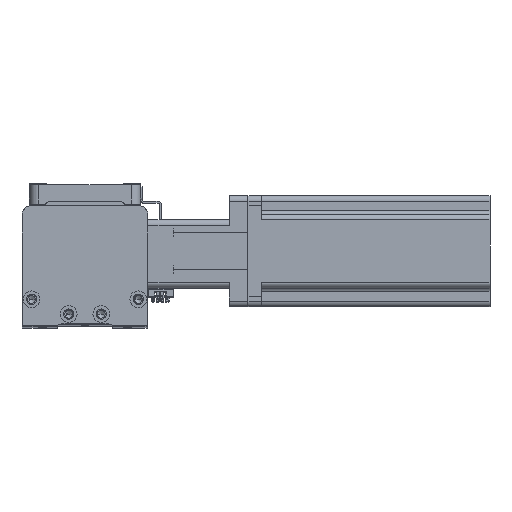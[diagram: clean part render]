
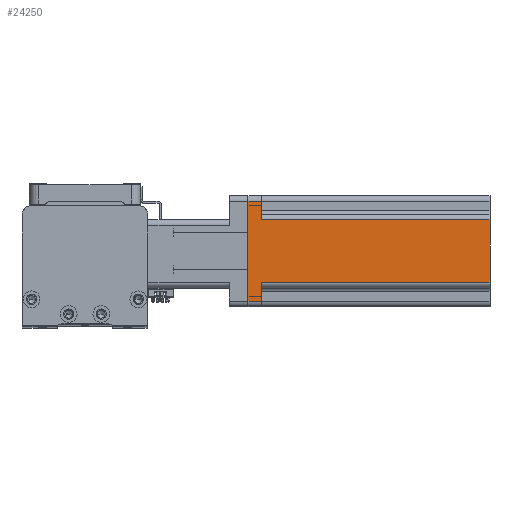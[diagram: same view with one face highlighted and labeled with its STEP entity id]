
A CAD part, top view. The second image highlights one B-rep face of the part: STEP entity #24250.
In plain terms, the highlighted planar face has unit normal (0, 0, 1) as drawn and (1, 0, 0) by its records, which use the part's own axes.
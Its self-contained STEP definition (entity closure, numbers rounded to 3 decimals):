
#992 = CARTESIAN_POINT ( 'NONE',  ( 30., -30., 130.7 ) ) ;
#2276 = VECTOR ( 'NONE', #35354, 1000. ) ;
#2801 = ORIENTED_EDGE ( 'NONE', *, *, #29727, .T. ) ;
#3747 = VERTEX_POINT ( 'NONE', #4107 ) ;
#4107 = CARTESIAN_POINT ( 'NONE',  ( 30., -17., 130.7 ) ) ;
#4290 = DIRECTION ( 'NONE',  ( 0., 0., 1. ) ) ;
#4815 = VECTOR ( 'NONE', #16199, 1000. ) ;
#5182 = LINE ( 'NONE', #34545, #13931 ) ;
#5632 = VECTOR ( 'NONE', #32491, 1000. ) ;
#5931 = FACE_OUTER_BOUND ( 'NONE', #11166, .T. ) ;
#6560 = CARTESIAN_POINT ( 'NONE',  ( 30., -30., 0. ) ) ;
#7615 = CARTESIAN_POINT ( 'NONE',  ( 30., 30., 7.5 ) ) ;
#8007 = ORIENTED_EDGE ( 'NONE', *, *, #20867, .T. ) ;
#8464 = VERTEX_POINT ( 'NONE', #36525 ) ;
#9455 = LINE ( 'NONE', #14914, #34697 ) ;
#9495 = CARTESIAN_POINT ( 'NONE',  ( 30., -30., 130.7 ) ) ;
#10286 = CARTESIAN_POINT ( 'NONE',  ( 30., 27., 7.5 ) ) ;
#10943 = DIRECTION ( 'NONE',  ( 0., 1., 0. ) ) ;
#11166 = EDGE_LOOP ( 'NONE', ( #25993, #26482, #17299, #16752, #8007, #23907, #18776, #2801 ) ) ;
#11596 = VERTEX_POINT ( 'NONE', #16913 ) ;
#12579 = CARTESIAN_POINT ( 'NONE',  ( 30., -17., 7.5 ) ) ;
#12986 = VECTOR ( 'NONE', #37080, 1000. ) ;
#13931 = VECTOR ( 'NONE', #21425, 1000. ) ;
#14466 = VECTOR ( 'NONE', #10943, 1000. ) ;
#14914 = CARTESIAN_POINT ( 'NONE',  ( 30., -17., 7.5 ) ) ;
#15066 = AXIS2_PLACEMENT_3D ( 'NONE', #992, #23919, #4290 ) ;
#15623 = CARTESIAN_POINT ( 'NONE',  ( 30., -30., 7.5 ) ) ;
#16199 = DIRECTION ( 'NONE',  ( 0., 0., -1. ) ) ;
#16752 = ORIENTED_EDGE ( 'NONE', *, *, #28842, .T. ) ;
#16913 = CARTESIAN_POINT ( 'NONE',  ( 30., 17., 7.5 ) ) ;
#17299 = ORIENTED_EDGE ( 'NONE', *, *, #28711, .T. ) ;
#18258 = DIRECTION ( 'NONE',  ( 0., 0., -1. ) ) ;
#18432 = CARTESIAN_POINT ( 'NONE',  ( 30., 17., 130.7 ) ) ;
#18776 = ORIENTED_EDGE ( 'NONE', *, *, #29617, .F. ) ;
#20867 = EDGE_CURVE ( 'NONE', #28196, #39088, #35114, .T. ) ;
#21120 = VERTEX_POINT ( 'NONE', #18432 ) ;
#21425 = DIRECTION ( 'NONE',  ( 0., 0., 1. ) ) ;
#23794 = PLANE ( 'NONE',  #15066 ) ;
#23907 = ORIENTED_EDGE ( 'NONE', *, *, #28925, .T. ) ;
#23919 = DIRECTION ( 'NONE',  ( -1., 0., 0. ) ) ;
#24250 = ADVANCED_FACE ( 'NONE', ( #5931 ), #23794, .F. ) ;
#25077 = EDGE_CURVE ( 'NONE', #3747, #21120, #27708, .T. ) ;
#25993 = ORIENTED_EDGE ( 'NONE', *, *, #25077, .F. ) ;
#26214 = DIRECTION ( 'NONE',  ( 0., 1., 0. ) ) ;
#26268 = VECTOR ( 'NONE', #26214, 1000. ) ;
#26482 = ORIENTED_EDGE ( 'NONE', *, *, #28534, .T. ) ;
#27708 = LINE ( 'NONE', #9495, #5632 ) ;
#28196 = VERTEX_POINT ( 'NONE', #35281 ) ;
#28534 = EDGE_CURVE ( 'NONE', #3747, #28792, #9455, .T. ) ;
#28711 = EDGE_CURVE ( 'NONE', #28792, #8464, #38298, .T. ) ;
#28792 = VERTEX_POINT ( 'NONE', #12579 ) ;
#28842 = EDGE_CURVE ( 'NONE', #8464, #28196, #29985, .T. ) ;
#28925 = EDGE_CURVE ( 'NONE', #39088, #38364, #39263, .T. ) ;
#29617 = EDGE_CURVE ( 'NONE', #11596, #38364, #40692, .T. ) ;
#29727 = EDGE_CURVE ( 'NONE', #11596, #21120, #5182, .T. ) ;
#29985 = LINE ( 'NONE', #35922, #4815 ) ;
#32491 = DIRECTION ( 'NONE',  ( 0., 1., 0. ) ) ;
#33736 = CARTESIAN_POINT ( 'NONE',  ( 30., 27., 130.7 ) ) ;
#34545 = CARTESIAN_POINT ( 'NONE',  ( 30., 17., 130.7 ) ) ;
#34697 = VECTOR ( 'NONE', #18258, 1000. ) ;
#35114 = LINE ( 'NONE', #6560, #26268 ) ;
#35281 = CARTESIAN_POINT ( 'NONE',  ( 30., -27., 0. ) ) ;
#35354 = DIRECTION ( 'NONE',  ( 0., -1., 0. ) ) ;
#35922 = CARTESIAN_POINT ( 'NONE',  ( 30., -27., 130.7 ) ) ;
#36525 = CARTESIAN_POINT ( 'NONE',  ( 30., -27., 7.5 ) ) ;
#37080 = DIRECTION ( 'NONE',  ( 0., 0., 1. ) ) ;
#38298 = LINE ( 'NONE', #15623, #2276 ) ;
#38364 = VERTEX_POINT ( 'NONE', #10286 ) ;
#39088 = VERTEX_POINT ( 'NONE', #39779 ) ;
#39263 = LINE ( 'NONE', #33736, #12986 ) ;
#39779 = CARTESIAN_POINT ( 'NONE',  ( 30., 27., 0. ) ) ;
#40692 = LINE ( 'NONE', #7615, #14466 ) ;
